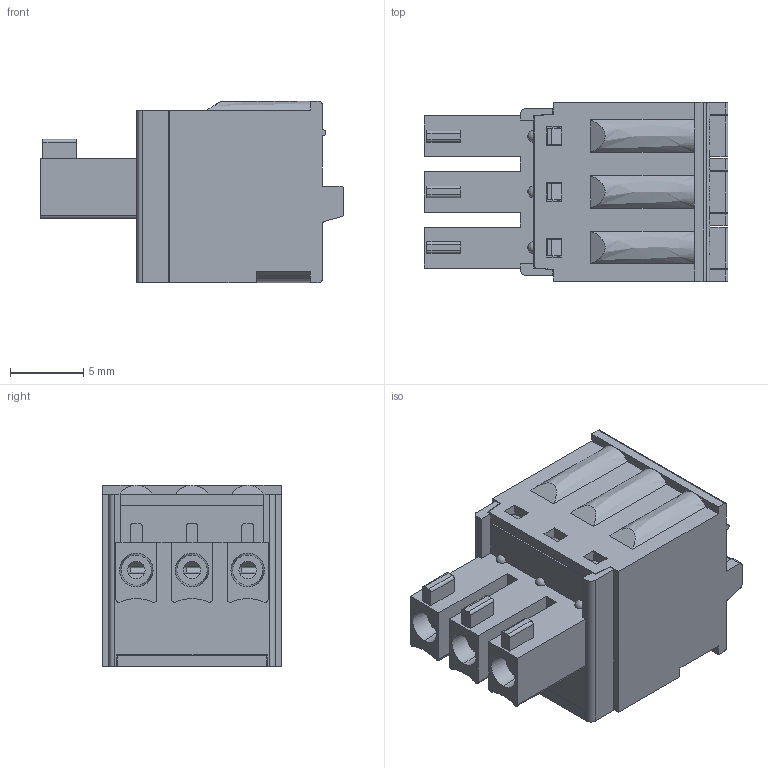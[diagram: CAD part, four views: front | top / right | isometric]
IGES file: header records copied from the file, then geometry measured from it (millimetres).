
Start section:  PTC IGES file: hw0330500000g.igs
Global section: file name: hw0330500000g.igs; native system: Creo Parametric by PTC Inc.; preprocessor: 2014500; author: exploitation; organization: Unknown; date: 20160524.112653; units: millimetre
Bounding box: 20.8 x 12.23 x 12.4 mm (x, y, z)
Volume: 1266.2 mm3; surface area: 3918.6 mm2
Topology: 2 solids, 5 shells, 995 faces, 2965 edges, 1926 vertices
Faces by surface type: bspline 749, revolution 246
